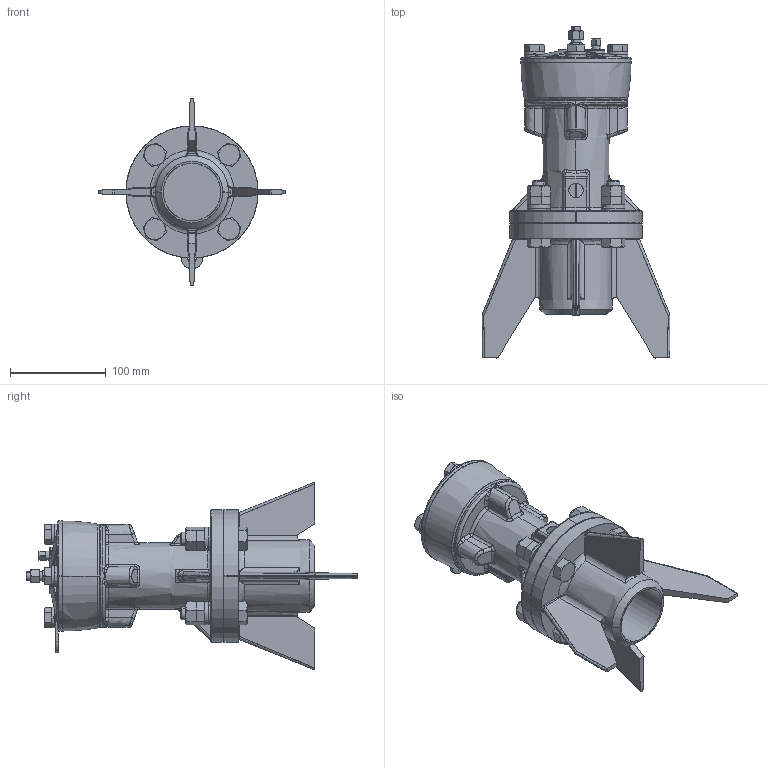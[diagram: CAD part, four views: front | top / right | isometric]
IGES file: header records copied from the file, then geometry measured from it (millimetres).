
Start section: SolidWorks IGES file using analytic representation for surfaces
Global section: file name: V:\WORK\08133\HP 悺朄恾\knocker\RKVS60\IGS_STEP僼傽僀儖\test_B75000F-000 RKVS60_defeature.IGS; native system: SolidWorks 2018; preprocessor: SolidWorks 2018; author: n-udagawa; date: 230222.144218; units: millimetre
Bounding box: 196 x 346.8 x 196 mm (x, y, z)
Surface area: 187590.2 mm2 (no closed solid volume)
Topology: 0 solids, 0 shells, 841 faces, 13669 edges, 15624 vertices
Faces by surface type: bspline 530, revolution 311
